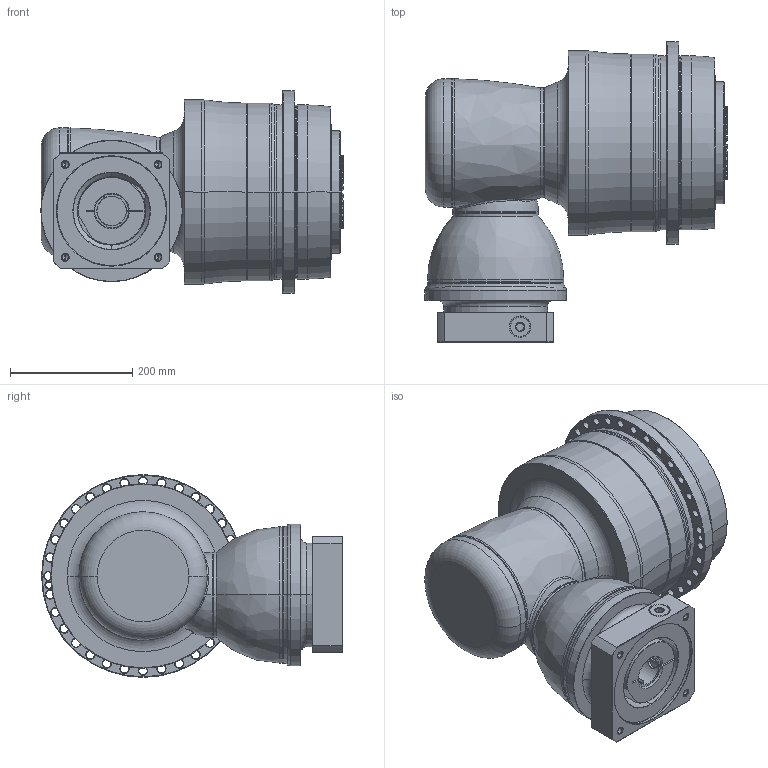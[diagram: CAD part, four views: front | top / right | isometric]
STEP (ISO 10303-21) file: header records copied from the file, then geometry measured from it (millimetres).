
FILE_DESCRIPTION((''),'2;1');
FILE_NAME('APCK285_3ST_48-P0409B10201_ASM','2018-05-14T',('d01226'),(''),'PRO/ENGINEER BY PARAMETRIC TECHNOLOGY CORPORATION, 2008410','PRO/ENGINEER BY PARAMETRIC TECHNOLOGY CORPORATION, 2008410','');
FILE_SCHEMA(('CONFIG_CONTROL_DESIGN'));
Length unit declared in the file: millimetre
Products named in the file (13): P1008600002; P1832810001; P0278801003; P03598G0103; P1211800001; P1315600001; P1007601001; P1318610401; P0409B10201; P0503B00016; P0912654001; 21711426021; APCK285_3ST_48-P0409B10201_ASM
Assembly tree (12 placements, depth 2):
  APCK285_3ST_48-P0409B10201_ASM
    P1008600002
    P1832810001
    P0278801003
    P03598G0103
    P1211800001
    P1315600001
    P1007601001
    P1318610401
    P0409B10201
    P0503B00016
    P0912654001
    21711426021
Bounding box: 495.1 x 492.5 x 332 mm (x, y, z)
Volume: 30550496.7 mm3; surface area: 1722372.6 mm2
Topology: 13 solids, 25 shells, 853 faces, 2055 edges, 1258 vertices
Faces by surface type: cone 282, cylinder 242, plane 154, torus 140, bspline 33, sphere 2
Entity records: 32421 total; most frequent: CARTESIAN_POINT 12030, DIRECTION 4543, ORIENTED_EDGE 4032, EDGE_CURVE 2041, AXIS2_PLACEMENT_3D 2005, VERTEX_POINT 1258, CIRCLE 1148, EDGE_LOOP 981
